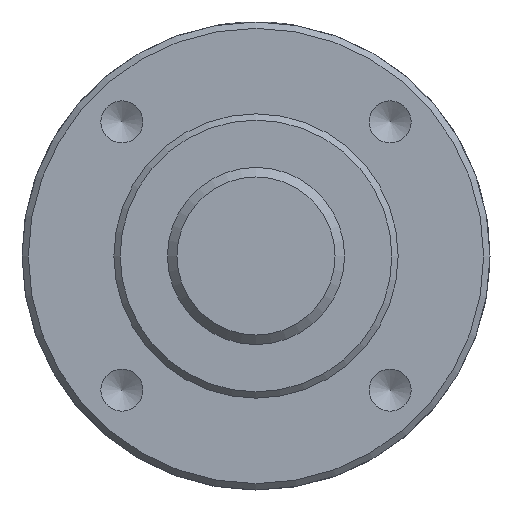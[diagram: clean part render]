
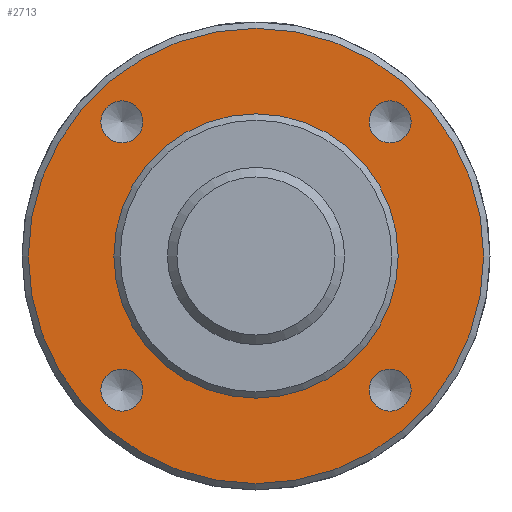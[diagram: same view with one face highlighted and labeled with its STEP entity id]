
A CAD part, left-side view. The second image highlights one B-rep face of the part: STEP entity #2713.
In plain terms, the highlighted planar face has unit normal (-1, 0, 0).
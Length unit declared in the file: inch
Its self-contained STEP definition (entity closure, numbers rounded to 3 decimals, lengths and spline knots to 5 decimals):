
#593=PLANE('',#3027);
#697=FACE_BOUND('',#1050,.T.);
#698=FACE_BOUND('',#1051,.T.);
#699=FACE_BOUND('',#1052,.T.);
#700=FACE_BOUND('',#1053,.T.);
#701=FACE_BOUND('',#1054,.T.);
#842=FACE_OUTER_BOUND('',#1049,.T.);
#1049=EDGE_LOOP('',(#2107));
#1050=EDGE_LOOP('',(#2108));
#1051=EDGE_LOOP('',(#2109));
#1052=EDGE_LOOP('',(#2110));
#1053=EDGE_LOOP('',(#2111));
#1054=EDGE_LOOP('',(#2112));
#1373=CIRCLE('',#3023,0.88484);
#1374=CIRCLE('',#3026,1.41732);
#1375=CIRCLE('',#3028,0.13085);
#1376=CIRCLE('',#3029,0.13085);
#1377=CIRCLE('',#3030,0.13085);
#1378=CIRCLE('',#3031,0.13085);
#1538=VERTEX_POINT('',#4322);
#1539=VERTEX_POINT('',#4326);
#1540=VERTEX_POINT('',#4329);
#1541=VERTEX_POINT('',#4331);
#1542=VERTEX_POINT('',#4333);
#1543=VERTEX_POINT('',#4335);
#1787=EDGE_CURVE('',#1538,#1538,#1373,.T.);
#1788=EDGE_CURVE('',#1539,#1539,#1374,.T.);
#1789=EDGE_CURVE('',#1540,#1540,#1375,.T.);
#1790=EDGE_CURVE('',#1541,#1541,#1376,.T.);
#1791=EDGE_CURVE('',#1542,#1542,#1377,.T.);
#1792=EDGE_CURVE('',#1543,#1543,#1378,.T.);
#2107=ORIENTED_EDGE('',*,*,#1788,.F.);
#2108=ORIENTED_EDGE('',*,*,#1787,.T.);
#2109=ORIENTED_EDGE('',*,*,#1789,.T.);
#2110=ORIENTED_EDGE('',*,*,#1790,.T.);
#2111=ORIENTED_EDGE('',*,*,#1791,.T.);
#2112=ORIENTED_EDGE('',*,*,#1792,.T.);
#2713=ADVANCED_FACE('',(#842,#697,#698,#699,#700,#701),#593,.T.);
#3023=AXIS2_PLACEMENT_3D('',#4323,#3421,#3422);
#3026=AXIS2_PLACEMENT_3D('',#4327,#3427,#3428);
#3027=AXIS2_PLACEMENT_3D('',#4328,#3429,#3430);
#3028=AXIS2_PLACEMENT_3D('',#4330,#3431,#3432);
#3029=AXIS2_PLACEMENT_3D('',#4332,#3433,#3434);
#3030=AXIS2_PLACEMENT_3D('',#4334,#3435,#3436);
#3031=AXIS2_PLACEMENT_3D('',#4336,#3437,#3438);
#3421=DIRECTION('center_axis',(1.,0.,0.));
#3422=DIRECTION('ref_axis',(0.,0.,-1.));
#3427=DIRECTION('center_axis',(1.,0.,0.));
#3428=DIRECTION('ref_axis',(0.,-1.,0.));
#3429=DIRECTION('center_axis',(-1.,0.,0.));
#3430=DIRECTION('ref_axis',(0.,0.,1.));
#3431=DIRECTION('center_axis',(1.,0.,0.));
#3432=DIRECTION('ref_axis',(0.,0.,1.));
#3433=DIRECTION('center_axis',(1.,0.,0.));
#3434=DIRECTION('ref_axis',(0.,-1.,0.));
#3435=DIRECTION('center_axis',(1.,0.,0.));
#3436=DIRECTION('ref_axis',(0.,0.,
-1.));
#3437=DIRECTION('center_axis',(1.,0.,0.));
#3438=DIRECTION('ref_axis',(0.,1.,0.));
#4322=CARTESIAN_POINT('',(0.,0.88484,0.));
#4323=CARTESIAN_POINT('Origin',(0.,0.,0.));
#4326=CARTESIAN_POINT('',(0.,1.41732,0.));
#4327=CARTESIAN_POINT('Origin',(0.,0.,0.));
#4328=CARTESIAN_POINT('Origin',(0.,1.45669,
0.));
#4329=CARTESIAN_POINT('',(0.,-0.83517,-0.70432));
#4330=CARTESIAN_POINT('Origin',(0.,-0.83517,
-0.83517));
#4331=CARTESIAN_POINT('',(0.,0.70432,-0.83517));
#4332=CARTESIAN_POINT('Origin',(0.,0.83517,
-0.83517));
#4333=CARTESIAN_POINT('',(0.,0.83517,0.70432));
#4334=CARTESIAN_POINT('Origin',(0.,0.83517,
0.83517));
#4335=CARTESIAN_POINT('',(0.,-0.70432,0.83517));
#4336=CARTESIAN_POINT('Origin',(0.,-0.83517,
0.83517));
